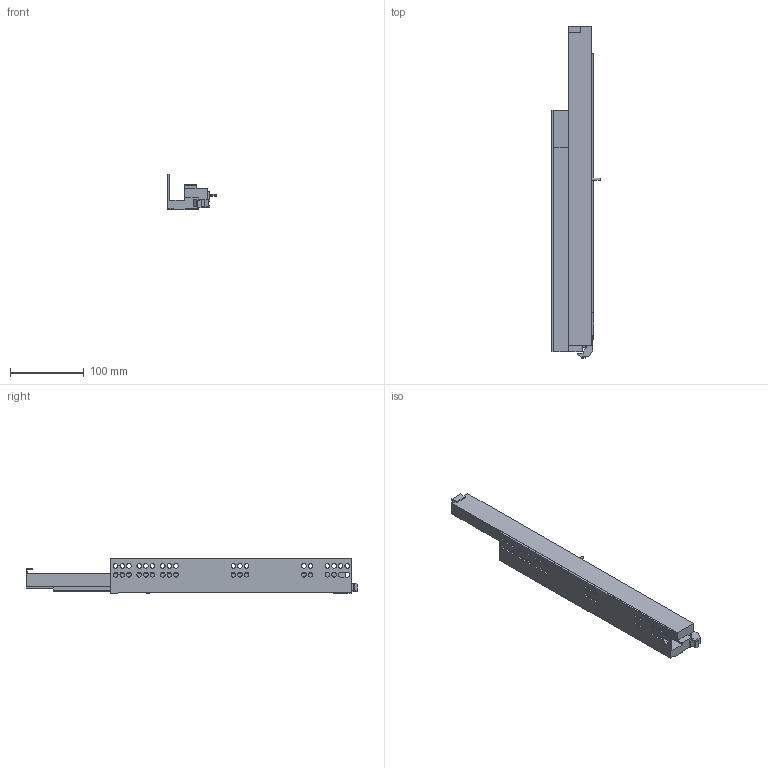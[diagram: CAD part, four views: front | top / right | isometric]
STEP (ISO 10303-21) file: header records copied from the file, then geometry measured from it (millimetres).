
FILE_DESCRIPTION (( 'STEP AP203' ), '1' );
FILE_NAME ('IMOS_Dynapro_Tipmatic_D51_NL_0_LI.STEP', '2013-03-22T12:05:44', ( 'Grass GmbH' ), ( 'Grass GmbH' ), 'SwSTEP 2.0', 'SolidWorks 2012', '' );
FILE_SCHEMA (( 'CONFIG_CONTROL_DESIGN' ));
Length unit declared in the file: millimetre
Products named in the file (1): IMOS_Dynapro_Tipmatic_D51_NL_0_LI
Bounding box: 65.92 x 451.55 x 48.48 mm (x, y, z)
Volume: 432881.5 mm3; surface area: 102971.4 mm2
Topology: 1 solids, 1 shells, 174 faces, 501 edges, 334 vertices
Faces by surface type: plane 97, cylinder 77
Entity records: 5956 total; most frequent: CARTESIAN_POINT 1010, DIRECTION 1005, ORIENTED_EDGE 1002, EDGE_CURVE 501, VECTOR 347, LINE 347, VERTEX_POINT 334, AXIS2_PLACEMENT_3D 329
